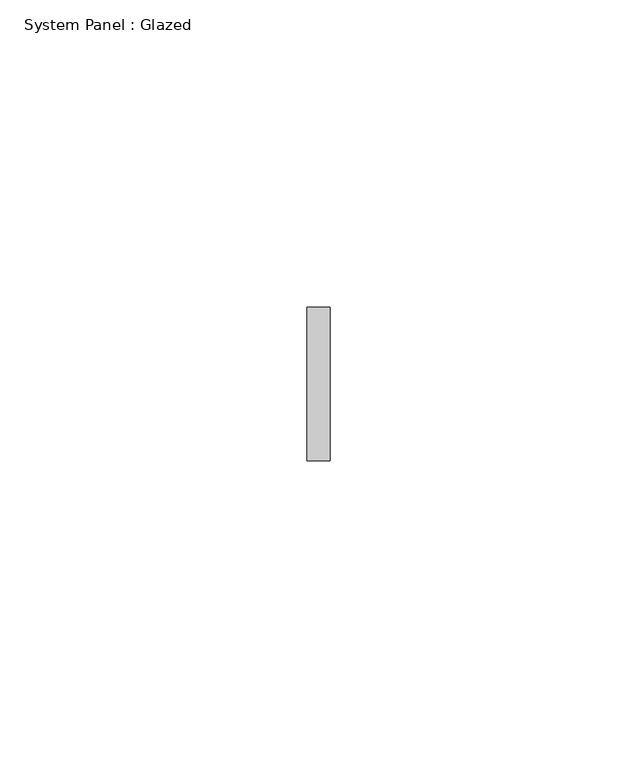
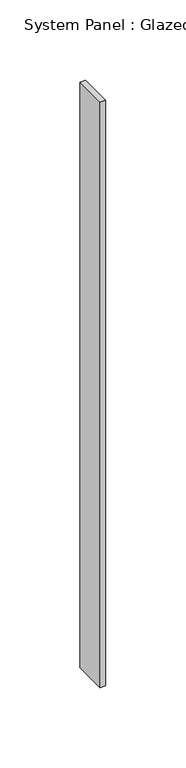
"""IFC4 building model written with IfcOpenShell, lengths in millimetres: plate geometry, System Panel : Glazed."""

from ifc_helpers import new_model, si_unit, origin, origin_with_axes, place, context, project, spatial, polyline, outline, extrude, source, transform, mapped, element, save


def system_panel_glazed_29cb387f(model_context):
    return source(origin(), model_context, "Body", "SweptSolid", [
        extrude(outline(polyline([(1.9081169, -12.5), (-1.9081169, -12.5), (-1.9081169, 12.5), (1.9081169, 12.5), (1.9081169, -12.5)])), origin_with_axes(), (0.0, 0.0, 1.0), 445.0),
    ])


if __name__ == "__main__":
    model = new_model("IFC4")
    model_context = context("Model", 3, world=origin())
    ifc_project = project(units=[si_unit("LENGTHUNIT", "METRE", prefix="MILLI")], contexts=[model_context])
    site = spatial("IfcSite", under=ifc_project)
    building = spatial("IfcBuilding", under=site)
    placement = place(None, origin())
    system_panel_glazed_shape = system_panel_glazed_29cb387f(model_context)
    element("IfcPlate", 1, ObjectType="System Panel : Glazed", at=placement, inside=building, context=model_context, shape_type="MappedRepresentation", body=[
        mapped(system_panel_glazed_shape, transform((0.0, 0.0, 0.0), x_axis=(1.0, 0.0, 0.0), y_axis=(0.0, 1.0, 0.0), z_axis=(0.0, 0.0, 1.0))),
    ])
    save(model, "model.ifc")
